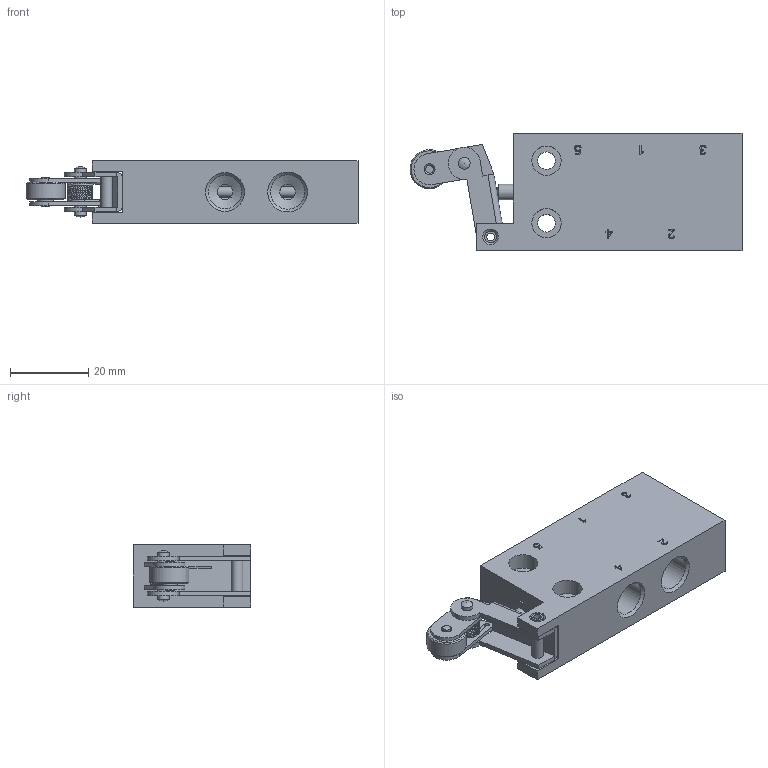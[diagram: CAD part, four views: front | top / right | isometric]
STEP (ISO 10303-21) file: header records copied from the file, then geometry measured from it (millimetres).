
FILE_DESCRIPTION(/* description */ ('Unknown','CAx-IF Rec.Pracs.---Representation and Presentation of Product Manufacturing Information (PMI)---4.0---2014-10-13','CAx-IF Rec.Pracs.---3D Tessellated Geometry---0.4---2014-09-14','2;1'),/* implementation_level */ '2;1');
FILE_NAME(/* name */ 'BL 511 301',/* time_stamp */ '2020-07-03T14:08:37+02:00',/* author */ ('Unknown'),/* organization */ ('Unknown'),/* preprocessor_version */ 'ST-DEVELOPER v16.7',/* originating_system */ 'DEX',/* authorisation */ $);
FILE_SCHEMA (('AP242_MANAGED_MODEL_BASED_3D_ENGINEERING_MIM_LF { 1 0 10303 442 20130219 1 4 }'));
Length unit declared in the file: millimetre
Products named in the file (2): BL 511 301
Assembly tree (1 placements, depth 2):
  BL 511 301
    BL 511 301
Bounding box: 84.93 x 30 x 16.2 mm (x, y, z)
Volume: 23969.1 mm3; surface area: 13975.7 mm2
Topology: 12 solids, 12 shells, 288 faces, 724 edges, 477 vertices
Faces by surface type: plane 136, cylinder 69, bspline 53, cone 27, sphere 3
Full cylindrical faces by diameter (mm): 0.5 x3, 1 x2, 2 x5, 2.8 x2, 3 x10, 4 x10, 4.05 x1, 4.5 x2, 5 x1, 6 x1, 7 x1, 7.5 x4, 8 x1, 8.06 x1, 8.08 x1, 8.566 x6, 8.8 x4, 10 x1
Entity records: 13133 total; most frequent: CARTESIAN_POINT 5569, ORIENTED_EDGE 1204, DIRECTION 1122, EDGE_CURVE 602, VERTEX_POINT 442, EDGE_LOOP 442, FACE_BOUND 442, AXIS2_PLACEMENT_3D 393
